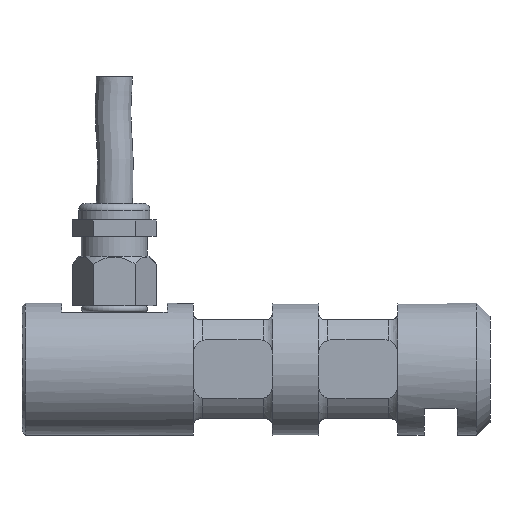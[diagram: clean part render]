
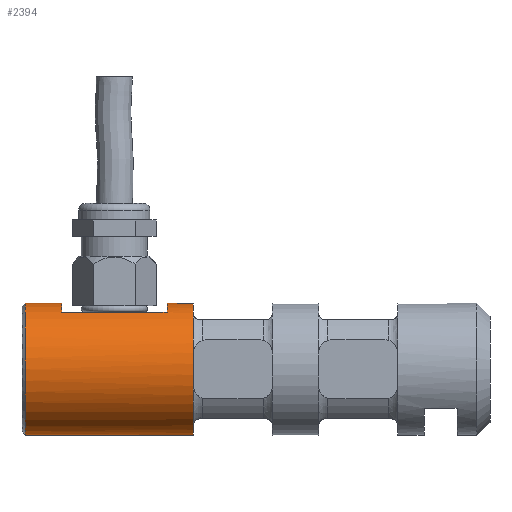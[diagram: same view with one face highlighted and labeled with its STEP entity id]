
A CAD part, front view. The second image highlights one B-rep face of the part: STEP entity #2394.
In plain terms, the highlighted cylindrical face has radius 10 mm (diameter 20 mm), a full revolution.
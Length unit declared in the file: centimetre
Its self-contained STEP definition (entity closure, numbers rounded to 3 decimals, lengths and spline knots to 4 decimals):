
#711=CYLINDRICAL_SURFACE('',#2533,1.);
#753=CIRCLE('',#2532,1.);
#754=CIRCLE('',#2534,1.);
#755=CIRCLE('',#2535,1.);
#756=CIRCLE('',#2536,1.);
#819=VERTEX_POINT('',#3124);
#820=VERTEX_POINT('',#3127);
#821=VERTEX_POINT('',#3128);
#822=VERTEX_POINT('',#3129);
#823=VERTEX_POINT('',#3130);
#824=VERTEX_POINT('',#3131);
#825=VERTEX_POINT('',#3132);
#826=VERTEX_POINT('',#3133);
#827=VERTEX_POINT('',#3134);
#828=VERTEX_POINT('',#3136);
#829=VERTEX_POINT('',#3137);
#830=VERTEX_POINT('',#3139);
#831=VERTEX_POINT('',#3141);
#992=VECTOR('',#2728,1.);
#993=VECTOR('',#2731,1.);
#1110=LINE('',#3138,#992);
#1111=LINE('',#3142,#993);
#1243=EDGE_CURVE('',#819,#819,#753,.T.);
#1244=EDGE_CURVE('',#820,#821,#754,.T.);
#1245=EDGE_CURVE('',#822,#820,#754,.T.);
#1246=EDGE_CURVE('',#823,#822,#754,.T.);
#1247=EDGE_CURVE('',#824,#823,#754,.T.);
#1248=EDGE_CURVE('',#825,#824,#754,.T.);
#1249=EDGE_CURVE('',#826,#825,#754,.T.);
#1250=EDGE_CURVE('',#827,#826,#754,.T.);
#1251=EDGE_CURVE('',#821,#827,#754,.T.);
#1252=EDGE_CURVE('',#828,#829,#755,.T.);
#1253=EDGE_CURVE('',#829,#830,#1110,.T.);
#1254=EDGE_CURVE('',#830,#831,#756,.T.);
#1255=EDGE_CURVE('',#831,#828,#1111,.T.);
#1535=ORIENTED_EDGE('',*,*,#1244,.F.);
#1536=ORIENTED_EDGE('',*,*,#1245,.F.);
#1537=ORIENTED_EDGE('',*,*,#1246,.F.);
#1538=ORIENTED_EDGE('',*,*,#1247,.F.);
#1539=ORIENTED_EDGE('',*,*,#1248,.F.);
#1540=ORIENTED_EDGE('',*,*,#1249,.F.);
#1541=ORIENTED_EDGE('',*,*,#1250,.F.);
#1542=ORIENTED_EDGE('',*,*,#1251,.F.);
#1543=ORIENTED_EDGE('',*,*,#1252,.T.);
#1544=ORIENTED_EDGE('',*,*,#1253,.T.);
#1545=ORIENTED_EDGE('',*,*,#1254,.T.);
#1546=ORIENTED_EDGE('',*,*,#1255,.T.);
#1547=ORIENTED_EDGE('',*,*,#1243,.F.);
#2084=EDGE_LOOP('',(#1535,#1536,#1537,#1538,#1539,#1540,#1541,#1542));
#2085=EDGE_LOOP('',(#1543,#1544,#1545,#1546));
#2086=EDGE_LOOP('',(#1547));
#2241=FACE_BOUND('',#2084,.T.);
#2242=FACE_BOUND('',#2085,.T.);
#2243=FACE_BOUND('',#2086,.T.);
#2394=ADVANCED_FACE('',(#2241,#2242,#2243),#711,.T.);
#2532=AXIS2_PLACEMENT_3D('',#3123,#2720,#2721);
#2533=AXIS2_PLACEMENT_3D('',#3125,#2722,#2723);
#2534=AXIS2_PLACEMENT_3D('',#3126,#2724,#2725);
#2535=AXIS2_PLACEMENT_3D('',#3135,#2726,#2727);
#2536=AXIS2_PLACEMENT_3D('',#3140,#2729,#2730);
#2720=DIRECTION('',(-1.,0.,0.));
#2721=DIRECTION('',(0.,0.,1.));
#2722=DIRECTION('',(1.,0.,0.));
#2723=DIRECTION('',(0.,0.,-1.));
#2724=DIRECTION('',(1.,0.,0.));
#2725=DIRECTION('',(0.,0.,-1.));
#2726=DIRECTION('',(1.,0.,0.));
#2727=DIRECTION('',(0.,0.,-1.));
#2728=DIRECTION('',(-1.,0.,0.));
#2729=DIRECTION('',(-1.,0.,0.));
#2730=DIRECTION('',(0.,0.,-1.));
#2731=DIRECTION('',(1.,0.,0.));
#3123=CARTESIAN_POINT('',(0.05,0.,0.));
#3124=CARTESIAN_POINT('',(0.05,0.,-1.));
#3125=CARTESIAN_POINT('',(2.4,0.,0.));
#3126=CARTESIAN_POINT('',(2.6,0.,0.));
#3127=CARTESIAN_POINT('',(2.6,0.9682,0.25));
#3128=CARTESIAN_POINT('',(2.6,0.5268,0.85));
#3129=CARTESIAN_POINT('',(2.6,0.9682,-0.25));
#3130=CARTESIAN_POINT('',(2.6,0.5268,-0.85));
#3131=CARTESIAN_POINT('',(2.6,-0.5268,-0.85));
#3132=CARTESIAN_POINT('',(2.6,-0.9682,-0.25));
#3133=CARTESIAN_POINT('',(2.6,-0.9682,0.25));
#3134=CARTESIAN_POINT('',(2.6,-0.5268,0.85));
#3135=CARTESIAN_POINT('',(2.2,0.,0.));
#3136=CARTESIAN_POINT('',(2.2,0.5,0.866));
#3137=CARTESIAN_POINT('',(2.2,-0.5,0.866));
#3138=CARTESIAN_POINT('',(1.4,-0.5,0.866));
#3139=CARTESIAN_POINT('',(0.6,-0.5,0.866));
#3140=CARTESIAN_POINT('',(0.6,0.,0.));
#3141=CARTESIAN_POINT('',(0.6,0.5,0.866));
#3142=CARTESIAN_POINT('',(1.4,0.5,0.866));
